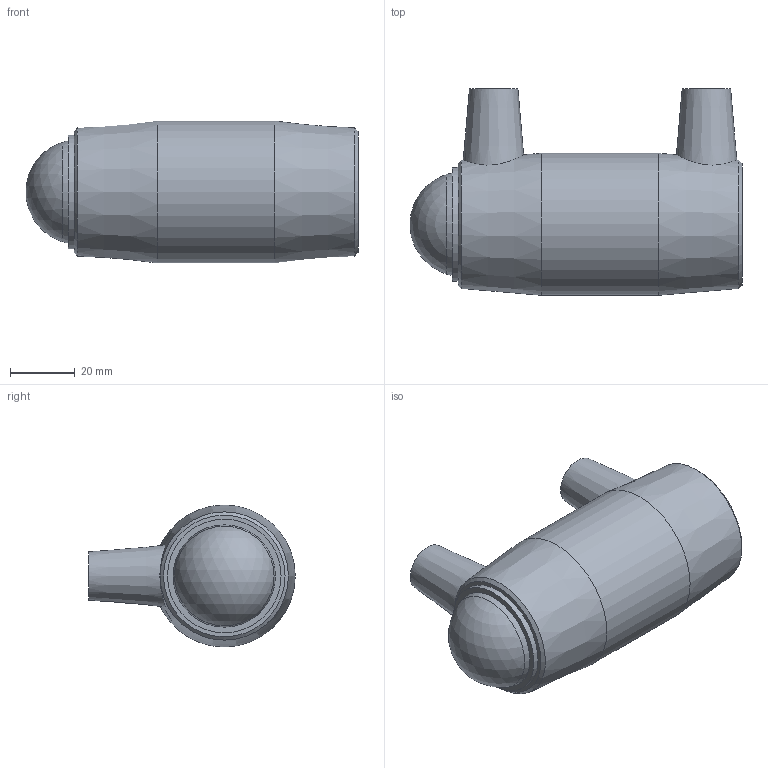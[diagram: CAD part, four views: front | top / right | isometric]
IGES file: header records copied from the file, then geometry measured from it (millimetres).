
Global section: file name: 491204032.ipt; native system: Autodesk Inventor 2015; preprocessor: unknown; author: KIM; date: 20171106.093749; units: millimetre
Bounding box: 102.89 x 64 x 44 mm (x, y, z)
Volume: 78671.3 mm3; surface area: 26948.2 mm2
Topology: 1 solids, 1 shells, 37 faces, 82 edges, 58 vertices
Faces by surface type: plane 13, revolution 13, cone 6, cylinder 4, sphere 1
Full cylindrical faces by diameter (mm): 4 x2, 35.2 x1, 44 x1
